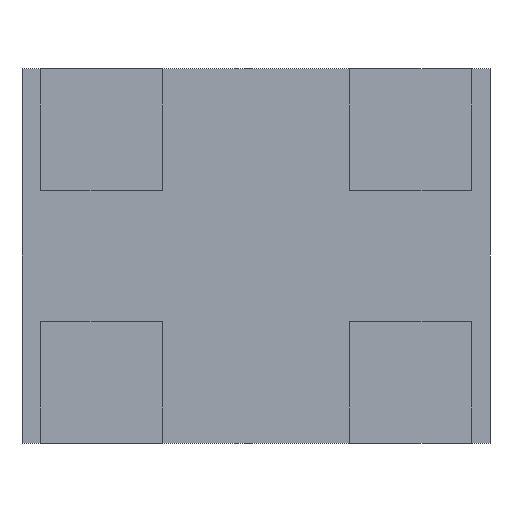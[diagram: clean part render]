
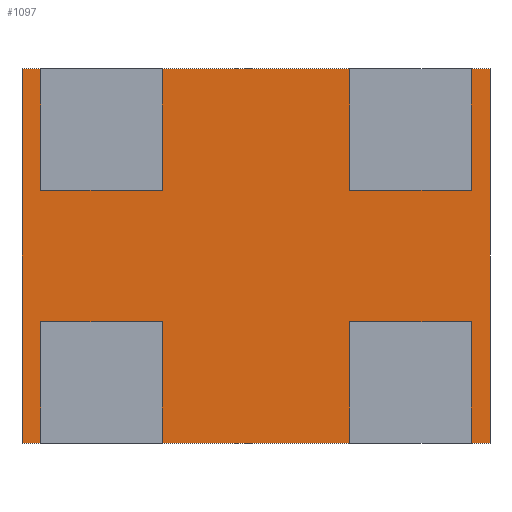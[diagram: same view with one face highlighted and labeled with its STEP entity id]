
A CAD part, front view. The second image highlights one B-rep face of the part: STEP entity #1097.
In plain terms, the highlighted planar face has unit normal (0, -1, 0).
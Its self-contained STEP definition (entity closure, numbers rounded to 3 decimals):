
#990 = CARTESIAN_POINT ( 'NONE',  ( 1.25, 0.05, 1. ) ) ;
#991 = VERTEX_POINT ( 'NONE', #990 ) ;
#992 = CARTESIAN_POINT ( 'NONE',  ( 1.25, 0.05, -1. ) ) ;
#993 = VERTEX_POINT ( 'NONE', #992 ) ;
#994 = CARTESIAN_POINT ( 'NONE',  ( 1.25, 0.05, 1. ) ) ;
#995 = DIRECTION ( 'NONE',  ( 0., 0., -1. ) ) ;
#996 = VECTOR ( 'NONE', #995, 1000. ) ;
#997 = LINE ( 'NONE', #994, #996 ) ;
#998 = EDGE_CURVE ( 'NONE', #991, #993, #997, .T. ) ;
#1021 = CARTESIAN_POINT ( 'NONE',  ( -1.25, 0.05, -1. ) ) ;
#1022 = VERTEX_POINT ( 'NONE', #1021 ) ;
#1023 = CARTESIAN_POINT ( 'NONE',  ( -1.25, 0.05, -1. ) ) ;
#1024 = DIRECTION ( 'NONE',  ( -1., 0., 0. ) ) ;
#1025 = VECTOR ( 'NONE', #1024, 1000. ) ;
#1026 = LINE ( 'NONE', #1023, #1025 ) ;
#1027 = EDGE_CURVE ( 'NONE', #993, #1022, #1026, .T. ) ;
#1045 = CARTESIAN_POINT ( 'NONE',  ( -1.25, 0.05, 1. ) ) ;
#1046 = VERTEX_POINT ( 'NONE', #1045 ) ;
#1047 = CARTESIAN_POINT ( 'NONE',  ( -1.25, 0.05, 1. ) ) ;
#1048 = DIRECTION ( 'NONE',  ( 0., 0., 1. ) ) ;
#1049 = VECTOR ( 'NONE', #1048, 1000. ) ;
#1050 = LINE ( 'NONE', #1047, #1049 ) ;
#1051 = EDGE_CURVE ( 'NONE', #1022, #1046, #1050, .T. ) ;
#1069 = CARTESIAN_POINT ( 'NONE',  ( -1.25, 0.05, 1. ) ) ;
#1070 = DIRECTION ( 'NONE',  ( 1., 0., 0. ) ) ;
#1071 = VECTOR ( 'NONE', #1070, 1000. ) ;
#1072 = LINE ( 'NONE', #1069, #1071 ) ;
#1073 = EDGE_CURVE ( 'NONE', #1046, #991, #1072, .T. ) ;
#1086 = ORIENTED_EDGE ( 'NONE', *, *, #998, .F. ) ;
#1087 = ORIENTED_EDGE ( 'NONE', *, *, #1073, .F. ) ;
#1088 = ORIENTED_EDGE ( 'NONE', *, *, #1051, .F. ) ;
#1089 = ORIENTED_EDGE ( 'NONE', *, *, #1027, .F. ) ;
#1090 = EDGE_LOOP ( 'NONE', ( #1086, #1087, #1088, #1089 ) ) ;
#1091 = FACE_OUTER_BOUND ( 'NONE', #1090, .T. ) ;
#1092 = CARTESIAN_POINT ( 'NONE',  ( 0., 0.05, 0. ) ) ;
#1093 = DIRECTION ( 'NONE',  ( 0., -1., 0. ) ) ;
#1094 = DIRECTION ( 'NONE',  ( 0., 0., -1. ) ) ;
#1095 = AXIS2_PLACEMENT_3D ( 'NONE', #1092, #1093, #1094 ) ;
#1096 = PLANE ( 'NONE', #1095 ) ;
#1097 = ADVANCED_FACE ( 'NONE', ( #1091 ), #1096, .T. ) ;
